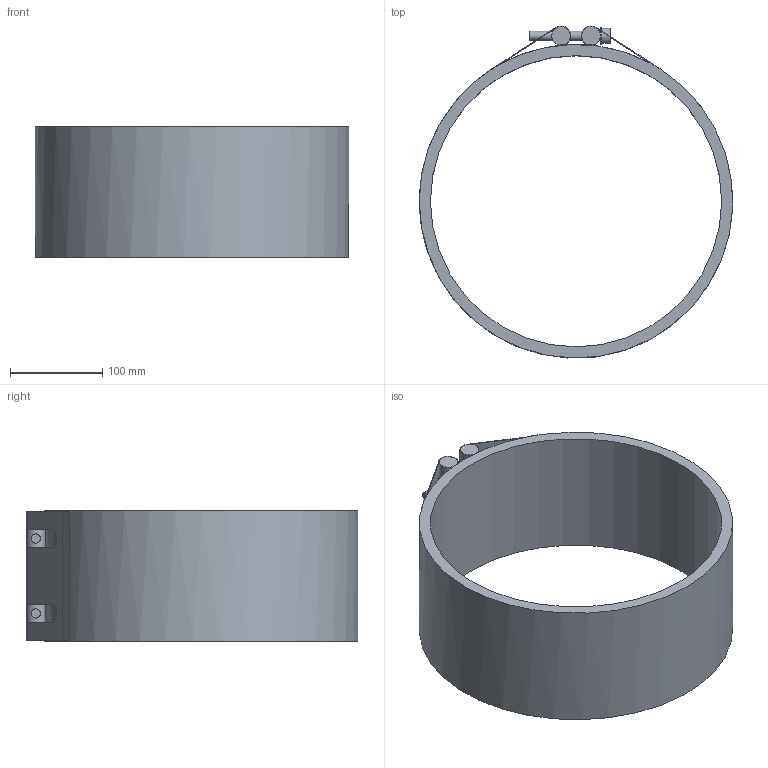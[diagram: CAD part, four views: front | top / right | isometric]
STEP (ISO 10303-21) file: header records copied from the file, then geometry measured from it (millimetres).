
FILE_DESCRIPTION(/* description */ (''),/* implementation_level */ '2;1');
FILE_NAME(/* name */ 'C:\Users\BR_11K\Desktop\STRAUB PLAST-GRIP 315.0.stp',/* time_stamp */ '2016-05-09T08:33:35+02:00',/* author */ ('BR_11K'),/* organization */ (''),/* preprocessor_version */ 'ST-DEVELOPER v16.1',/* originating_system */ 'Autodesk Inventor 2016',/* authorisation */ '');
FILE_SCHEMA (('AUTOMOTIVE_DESIGN { 1 0 10303 214 3 1 1 }'));
Length unit declared in the file: millimetre
Products named in the file (1): STRAUB PLAST-GRIP 315.0
Bounding box: 339.08 x 359.11 x 141 mm (x, y, z)
Volume: 1865100.1 mm3; surface area: 367582.9 mm2
Topology: 1 solids, 1 shells, 88 faces, 254 edges, 163 vertices
Faces by surface type: plane 56, cylinder 30, torus 2
Full cylindrical faces by diameter (mm): 10 x4, 16 x2, 18 x2, 20 x2, 315 x1, 339.2 x1
Entity records: 3052 total; most frequent: CARTESIAN_POINT 739, DIRECTION 476, ORIENTED_EDGE 460, EDGE_CURVE 226, AXIS2_PLACEMENT_3D 171, VERTEX_POINT 156, LINE 134, VECTOR 134
